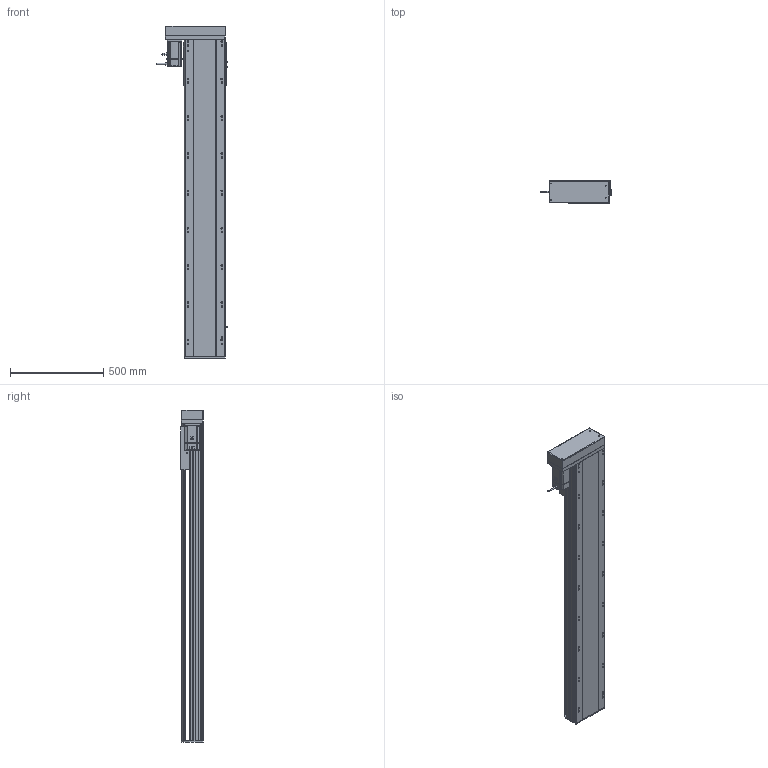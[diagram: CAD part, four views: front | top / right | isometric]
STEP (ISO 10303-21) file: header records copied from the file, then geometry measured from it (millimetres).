
FILE_DESCRIPTION (( 'STEP AP214' ), '1' );
FILE_NAME ('RTH22-XX-1400-R-M75-C4.STEP', '2025-10-25T03:15:24', ( 'Microsoft' ), ( 'Microsoft' ), 'SwSTEP 2.0', 'SolidWorks 2018', '' );
FILE_SCHEMA (( 'AUTOMOTIVE_DESIGN' ));
Length unit declared in the file: millimetre
Products named in the file (10): N_RTH22-L-004-SFS25賑釱^RTH22-XX-XX-R-M75-C4; N_OMRON EE-SX672 传感器^RTH22-XX-XX-R-M75-C4; N_RTH22-R-008-P75萇儂啣^RTH22-XX-XX-R-M75-C4; N_RTH22-GY-013外置感应片^RTH22-XX-XX-R-M75-C4; N_RTH22-L-018裔赽^RTH22-XX-XX-R-M75-C4; RTH22-XX-1400-R-M75-C4; N_RTH22-L-011菁釱^RTH22-XX-XX-R-M75-C4; N_RTH22-L-007奻裔^RTH22-XX-XX-R-M75-C4; N_RTH22-GY-001耜裔^RTH22-XX-XX-R-M75-C4; N_750W萇儂^RTH22-XX-XX-R-M75-C4
Assembly tree (11 placements, depth 2):
  RTH22-XX-1400-R-M75-C4
    N_RTH22-L-011菁釱^RTH22-XX-XX-R-M75-C4
    N_RTH22-GY-001耜裔^RTH22-XX-XX-R-M75-C4
    N_750W萇儂^RTH22-XX-XX-R-M75-C4
    N_RTH22-R-008-P75萇儂啣^RTH22-XX-XX-R-M75-C4
    N_RTH22-L-007奻裔^RTH22-XX-XX-R-M75-C4
    N_OMRON EE-SX672 传感器^RTH22-XX-XX-R-M75-C4  x3
    N_RTH22-GY-013外置感应片^RTH22-XX-XX-R-M75-C4
    N_RTH22-L-004-SFS25賑釱^RTH22-XX-XX-R-M75-C4
    N_RTH22-L-018裔赽^RTH22-XX-XX-R-M75-C4
Bounding box: 384.7 x 122 x 1779.7 mm (x, y, z)
Volume: 23600188.1 mm3; surface area: 2576926.5 mm2
Topology: 11 solids, 11 shells, 1628 faces, 4447 edges, 2863 vertices
Faces by surface type: plane 797, cylinder 486, bspline 279, cone 66
Entity records: 41283 total; most frequent: CARTESIAN_POINT 12498, ORIENTED_EDGE 5854, DIRECTION 5553, EDGE_CURVE 2927, VERTEX_POINT 1899, AXIS2_PLACEMENT_3D 1882, LINE 1789, VECTOR 1789
